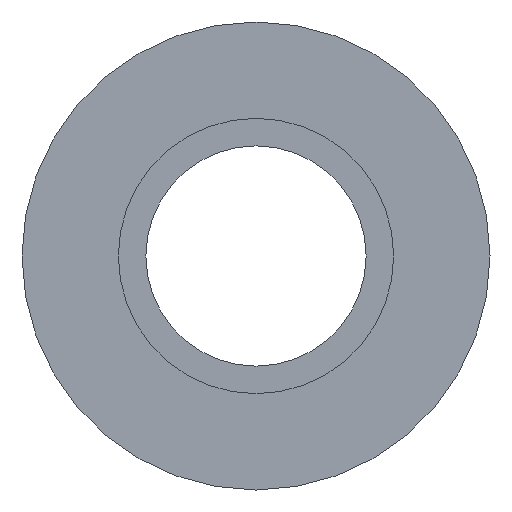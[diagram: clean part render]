
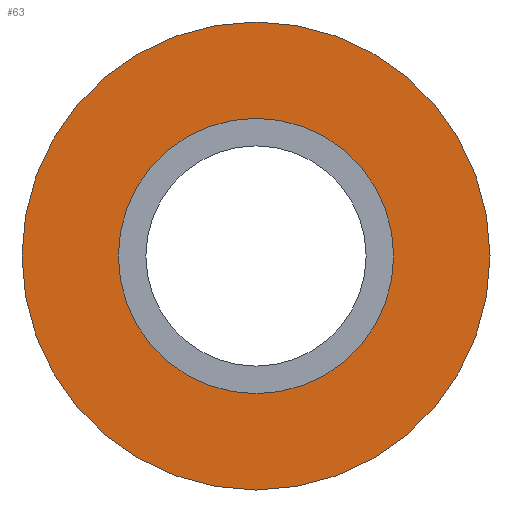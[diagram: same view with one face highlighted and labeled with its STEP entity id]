
A CAD part, left-side view. The second image highlights one B-rep face of the part: STEP entity #63.
In plain terms, the highlighted planar face has unit normal (-1, 0, 0).
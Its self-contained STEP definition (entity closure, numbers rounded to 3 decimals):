
#63 = ADVANCED_FACE ( 'NONE', ( #135, #134 ), #133, .F. ) ;
#64 = ORIENTED_EDGE ( 'NONE', *, *, #276, .F. ) ;
#65 = ORIENTED_EDGE ( 'NONE', *, *, #66, .F. ) ;
#66 = EDGE_CURVE ( 'NONE', #277, #274, #128, .T. ) ;
#67 = EDGE_LOOP ( 'NONE', ( #65, #64 ) ) ;
#68 = EDGE_LOOP ( 'NONE', ( #69, #162 ) ) ;
#69 = ORIENTED_EDGE ( 'NONE', *, *, #232, .T. ) ;
#108 = EDGE_CURVE ( 'NONE', #260, #233, #489, .T. ) ;
#124 = DIRECTION ( 'NONE',  ( 0., 0., -1. ) ) ;
#125 = DIRECTION ( 'NONE',  ( 1., 0., 0. ) ) ;
#126 = CARTESIAN_POINT ( 'NONE',  ( 0., 0., 0. ) ) ;
#127 = AXIS2_PLACEMENT_3D ( 'NONE', #126, #125, #124 ) ;
#128 = CIRCLE ( 'NONE', #127, 8.5 ) ;
#129 = DIRECTION ( 'NONE',  ( 0., 0., -1. ) ) ;
#130 = DIRECTION ( 'NONE',  ( 1., 0., 0. ) ) ;
#131 = CARTESIAN_POINT ( 'NONE',  ( 0., 0., 0. ) ) ;
#132 = AXIS2_PLACEMENT_3D ( 'NONE', #131, #130, #129 ) ;
#133 = PLANE ( 'NONE',  #132 ) ;
#134 = FACE_BOUND ( 'NONE', #68, .T. ) ;
#135 = FACE_OUTER_BOUND ( 'NONE', #67, .T. ) ;
#162 = ORIENTED_EDGE ( 'NONE', *, *, #108, .T. ) ;
#232 = EDGE_CURVE ( 'NONE', #233, #260, #360, .T. ) ;
#233 = VERTEX_POINT ( 'NONE', #441 ) ;
#260 = VERTEX_POINT ( 'NONE', #518 ) ;
#274 = VERTEX_POINT ( 'NONE', #455 ) ;
#276 = EDGE_CURVE ( 'NONE', #274, #277, #454, .T. ) ;
#277 = VERTEX_POINT ( 'NONE', #449 ) ;
#357 = DIRECTION ( 'NONE',  ( 1., 0., 0. ) ) ;
#358 = CARTESIAN_POINT ( 'NONE',  ( 0., 0., 0. ) ) ;
#359 = AXIS2_PLACEMENT_3D ( 'NONE', #358, #357, #442 ) ;
#360 = CIRCLE ( 'NONE', #359, 5. ) ;
#441 = CARTESIAN_POINT ( 'NONE',  ( 0., 0., 5. ) ) ;
#442 = DIRECTION ( 'NONE',  ( 0., 0., -1. ) ) ;
#449 = CARTESIAN_POINT ( 'NONE',  ( 0., 0., 8.5 ) ) ;
#450 = DIRECTION ( 'NONE',  ( 0., 0., -1. ) ) ;
#451 = DIRECTION ( 'NONE',  ( 1., 0., 0. ) ) ;
#452 = CARTESIAN_POINT ( 'NONE',  ( 0., 0., 0. ) ) ;
#453 = AXIS2_PLACEMENT_3D ( 'NONE', #452, #451, #450 ) ;
#454 = CIRCLE ( 'NONE', #453, 8.5 ) ;
#455 = CARTESIAN_POINT ( 'NONE',  ( 0., 0., -8.5 ) ) ;
#485 = DIRECTION ( 'NONE',  ( 0., 0., -1. ) ) ;
#486 = DIRECTION ( 'NONE',  ( 1., 0., 0. ) ) ;
#487 = CARTESIAN_POINT ( 'NONE',  ( 0., 0., 0. ) ) ;
#488 = AXIS2_PLACEMENT_3D ( 'NONE', #487, #486, #485 ) ;
#489 = CIRCLE ( 'NONE', #488, 5. ) ;
#518 = CARTESIAN_POINT ( 'NONE',  ( 0., 0., -5. ) ) ;
